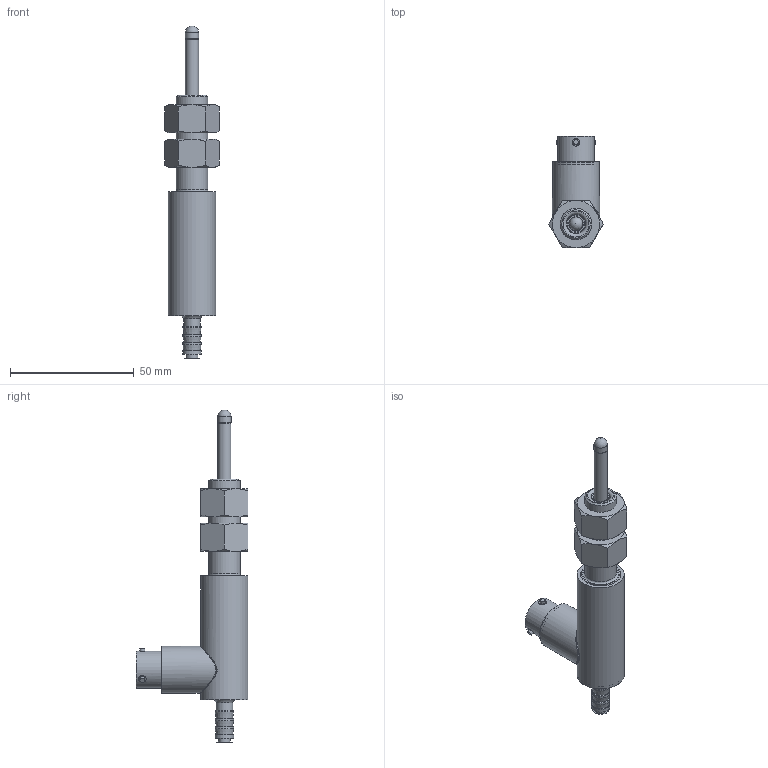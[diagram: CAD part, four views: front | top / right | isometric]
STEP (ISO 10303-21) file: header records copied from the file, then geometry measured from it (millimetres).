
FILE_DESCRIPTION(/* description */ (''),/* implementation_level */ '2;1');
FILE_NAME(/* name */ 'GHRA-750-A-050 ASS''Y.iam.stp',/* time_stamp */ '2023-11-09T15:12:39-05:00',/* author */ ('J. Nielson'),/* organization */ (''),/* preprocessor_version */ 'ST-DEVELOPER v20',/* originating_system */ 'Autodesk Inventor 2024',/* authorisation */ '');
FILE_SCHEMA (('AUTOMOTIVE_DESIGN { 1 0 10303 214 3 1 1 }'));
Length unit declared in the file: inch
Products named in the file (4): GHRA-750-A-050 ASSEMBLY; GHRA-750-A-050 HOUSING_Shrinkwrap_1; GHRA-750-A-050 SHAFT_SW; AS 2465 - 1/2  UNF
Assembly tree (4 placements, depth 2):
  GHRA-750-A-050 ASSEMBLY
    GHRA-750-A-050 HOUSING_Shrinkwrap_1
    GHRA-750-A-050 SHAFT_SW
    AS 2465 - 1/2  UNF  x2
Bounding box: 22 x 45.24 x 134.24 mm (x, y, z)
Volume: 17484.7 mm3; surface area: 19869.7 mm2
Topology: 17 solids, 17 shells, 223 faces, 442 edges, 284 vertices
Faces by surface type: plane 89, cylinder 74, cone 47, bspline 7, torus 5, sphere 1
Full cylindrical faces by diameter (mm): 0.762 x12, 1.905 x1, 2.032 x3, 2.845 x2, 3.048 x3, 4.762 x1, 4.826 x2, 5.334 x4, 5.397 x1, 6 x1, 6.731 x1, 7.493 x4, 7.671 x2, 7.874 x1, 11.328 x2, 12.7 x1, 13.208 x1, 14.986 x1, 15.748 x2, 16.51 x1, 17.018 x1, 17.069 x1, 17.78 x1, 18.034 x1, 18.415 x6, 19.05 x2
Entity records: 7537 total; most frequent: CARTESIAN_POINT 2899, DIRECTION 950, ORIENTED_EDGE 780, AXIS2_PLACEMENT_3D 407, EDGE_CURVE 390, EDGE_LOOP 259, VERTEX_POINT 255, CIRCLE 206
